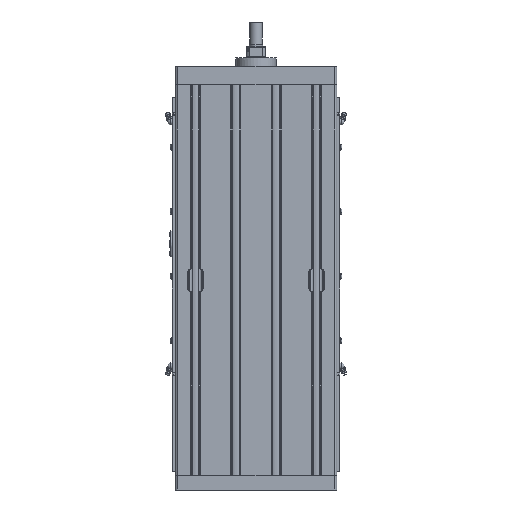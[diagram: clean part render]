
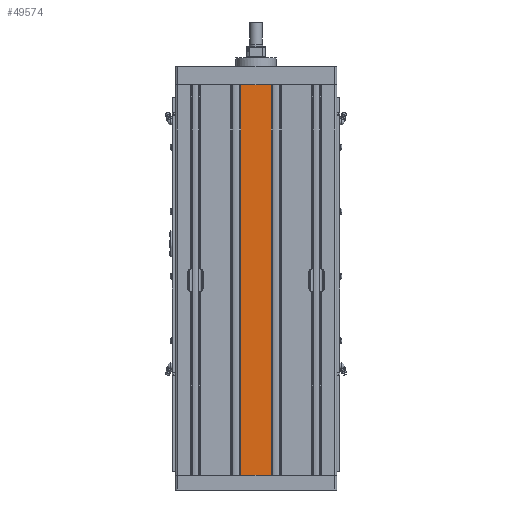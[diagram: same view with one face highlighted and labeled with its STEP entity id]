
A CAD part, front view. The second image highlights one B-rep face of the part: STEP entity #49574.
In plain terms, the highlighted planar face has unit normal (0, -1, 0).
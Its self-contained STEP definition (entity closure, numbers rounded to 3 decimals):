
#6431=FACE_OUTER_BOUND('',#9246,.T.);
#9246=EDGE_LOOP('',(#35013,#35014,#35015,#35016));
#12768=LINE('',#72696,#17284);
#12864=LINE('',#73009,#17380);
#13026=LINE('',#73412,#17542);
#13027=LINE('',#73414,#17543);
#17284=VECTOR('',#58430,10.);
#17380=VECTOR('',#58656,10.);
#17542=VECTOR('',#59066,10.);
#17543=VECTOR('',#59069,10.);
#21764=VERTEX_POINT('',#72693);
#21765=VERTEX_POINT('',#72695);
#21916=VERTEX_POINT('',#73006);
#21917=VERTEX_POINT('',#73008);
#26734=EDGE_CURVE('',#21764,#21765,#12768,.T.);
#26894=EDGE_CURVE('',#21916,#21917,#12864,.T.);
#27100=EDGE_CURVE('',#21764,#21917,#13026,.T.);
#27101=EDGE_CURVE('',#21765,#21916,#13027,.T.);
#35013=ORIENTED_EDGE('',*,*,#27100,.T.);
#35014=ORIENTED_EDGE('',*,*,#26894,.F.);
#35015=ORIENTED_EDGE('',*,*,#27101,.F.);
#35016=ORIENTED_EDGE('',*,*,#26734,.F.);
#47847=PLANE('',#53002);
#49574=ADVANCED_FACE('',(#6431),#47847,.T.);
#53002=AXIS2_PLACEMENT_3D('',#73413,#59067,#59068);
#58430=DIRECTION('',(-1.,0.,0.));
#58656=DIRECTION('',(1.,0.,0.));
#59066=DIRECTION('',(0.,0.,1.));
#59067=DIRECTION('center_axis',(0.,-1.,0.));
#59068=DIRECTION('ref_axis',(1.,0.,0.));
#59069=DIRECTION('',(0.,0.,1.));
#72693=CARTESIAN_POINT('',(18.9,-50.,-292.));
#72695=CARTESIAN_POINT('',(-18.9,-50.,-292.));
#72696=CARTESIAN_POINT('',(18.9,-50.,-292.));
#73006=CARTESIAN_POINT('',(-18.9,-50.,192.));
#73008=CARTESIAN_POINT('',(18.9,-50.,192.));
#73009=CARTESIAN_POINT('',(-18.9,-50.,192.));
#73412=CARTESIAN_POINT('',(18.9,-50.,0.));
#73413=CARTESIAN_POINT('Origin',(-18.9,-50.,0.));
#73414=CARTESIAN_POINT('',(-18.9,-50.,0.));
